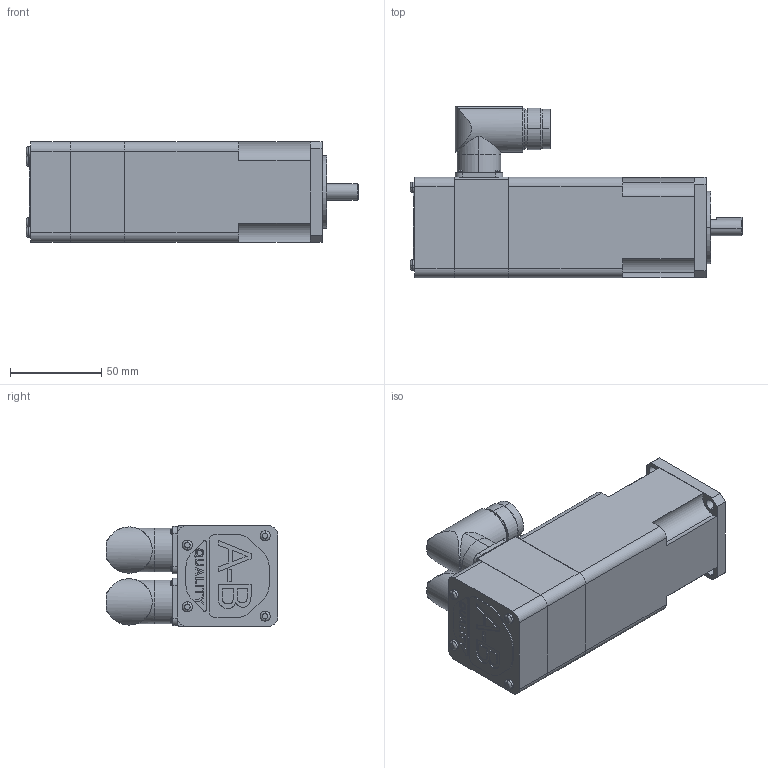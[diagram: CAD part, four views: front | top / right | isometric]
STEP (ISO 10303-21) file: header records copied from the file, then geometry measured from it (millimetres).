
FILE_DESCRIPTION (( 'STEP AP214' ), '1' );
FILE_NAME ('Rockwell Automation-MPL-x1520x-xJ74AA.STEP', '2015-07-08T12:33:41', ( 'Windows User' ), ( '' ), 'SwSTEP 2.0', 'SolidWorks 2015', '' );
FILE_SCHEMA (( 'AUTOMOTIVE_DESIGN' ));
Length unit declared in the file: inch
Products named in the file (5): Rockwell Automation-MPL-x1520x-xJ74AA_MPL-15xx-Feedback Connector; Rockwell Automation-MPL-x1520x-xJ74AA_MPL-15xx-Power Connector; Rockwell Automation-MPL-x1520x-xJ74AA_MPL-15xx-Shaft-Key_1520-SHAFT-KEYED-BRAKE; Rockwell Automation-MPL-x1520x-xJ74AA_MPL-15xx-Body_1520-BRAKE; Rockwell Automation-MPL-x1520x-xJ74AA
Assembly tree (4 placements, depth 2):
  Rockwell Automation-MPL-x1520x-xJ74AA
    Rockwell Automation-MPL-x1520x-xJ74AA_MPL-15xx-Body_1520-BRAKE
    Rockwell Automation-MPL-x1520x-xJ74AA_MPL-15xx-Shaft-Key_1520-SHAFT-KEYED-BRAKE
    Rockwell Automation-MPL-x1520x-xJ74AA_MPL-15xx-Power Connector
    Rockwell Automation-MPL-x1520x-xJ74AA_MPL-15xx-Feedback Connector
Bounding box: 182.3 x 94.15 x 55.12 mm (x, y, z)
Volume: 227824.2 mm3; surface area: 103112.8 mm2
Topology: 8 solids, 8 shells, 520 faces, 1225 edges, 787 vertices
Faces by surface type: plane 226, cylinder 181, torus 48, bspline 34, cone 31
Entity records: 17655 total; most frequent: CARTESIAN_POINT 4847, DIRECTION 2601, ORIENTED_EDGE 2446, EDGE_CURVE 1223, AXIS2_PLACEMENT_3D 978, VERTEX_POINT 787, VECTOR 645, LINE 645
